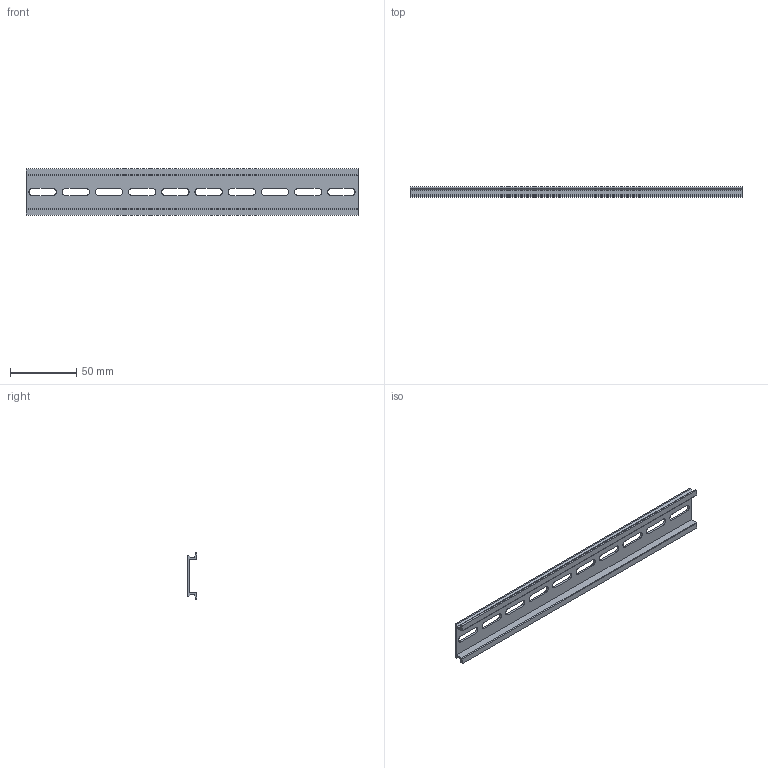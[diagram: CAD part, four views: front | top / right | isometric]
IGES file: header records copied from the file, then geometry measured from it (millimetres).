
Start section: ------------------------------------------------------------------------
Global section: file name: D:\ICADMX\tmp\trans3d_spg\CVICAD02.21224.DIN-RAIL250_7795.igs; native system: spGate; preprocessor: ver12.6.6; author: Unknown; organization: Unknown; date: 200901.142027; units: millimetre
Bounding box: 250 x 7.5 x 35 mm (x, y, z)
Volume: 17649.6 mm3; surface area: 23662.1 mm2
Topology: 1 solids, 1 shells, 60 faces, 174 edges, 116 vertices
Faces by surface type: bspline 60
